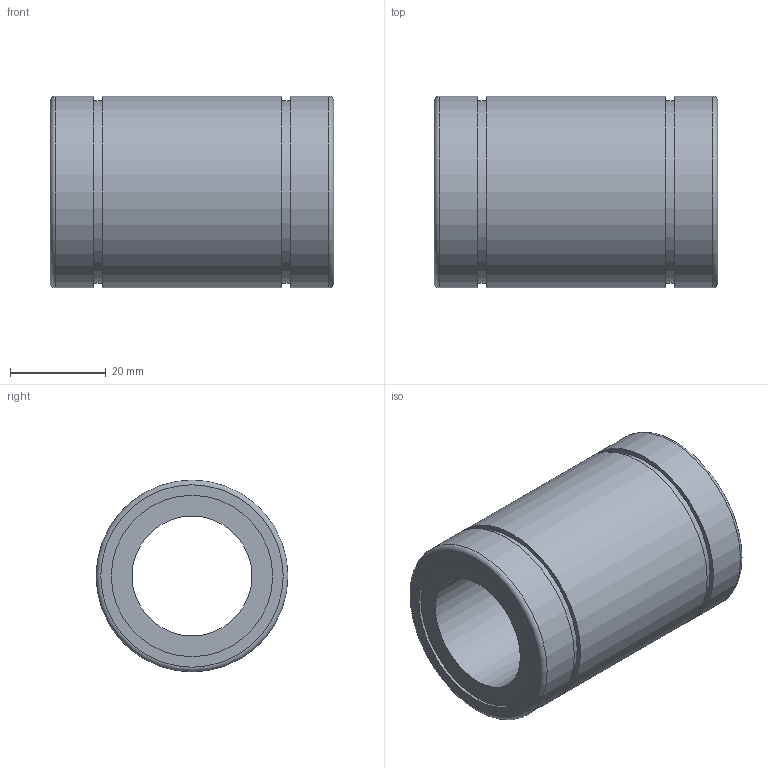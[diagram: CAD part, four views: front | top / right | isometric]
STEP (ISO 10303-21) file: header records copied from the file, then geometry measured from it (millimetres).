
FILE_DESCRIPTION(/* description */ ('STEP AP214'),/* implementation_level */ '2;1');
FILE_NAME(/* name */ '\\JOINapp01\Profiles\martins\Desktop\rolamento\LM25UU.step',/* time_stamp */ '2018-02-15T09:58:52-02:00',/* author */ ('martins'),/* organization */ ('TraceParts S.A.'),/* preprocessor_version */ 'ST-DEVELOPER v16.1',/* originating_system */ 'Autodesk Inventor 2016',/* authorisation */ ' ');
FILE_SCHEMA (('AUTOMOTIVE_DESIGN { 1 0 10303 214 3 1 1 }'));
Length unit declared in the file: millimetre
Products named in the file (2): lm25uu; Assembly12
Assembly tree (1 placements, depth 2):
  Assembly12
    lm25uu
Bounding box: 59 x 40 x 40 mm (x, y, z)
Volume: 44204.9 mm3; surface area: 13981.4 mm2
Topology: 1 solids, 1 shells, 196 faces, 526 edges, 351 vertices
Faces by surface type: plane 130, bspline 56, cylinder 8, torus 2
Full cylindrical faces by diameter (mm): 25 x1, 33.6 x2, 38 x2, 40 x3
Entity records: 6552 total; most frequent: CARTESIAN_POINT 1956, ORIENTED_EDGE 1026, DIRECTION 705, EDGE_CURVE 513, LINE 383, VECTOR 383, VERTEX_POINT 348, EDGE_LOOP 227
